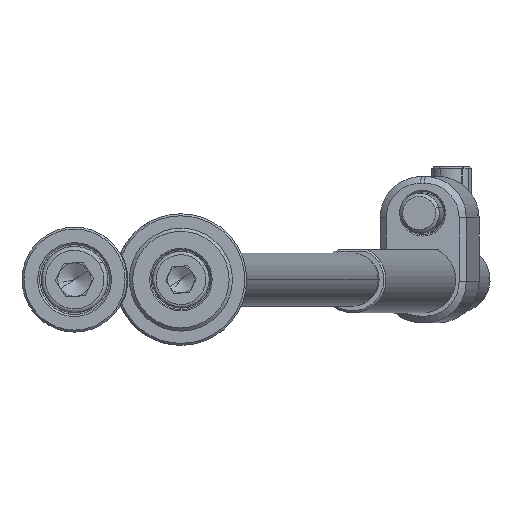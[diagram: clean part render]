
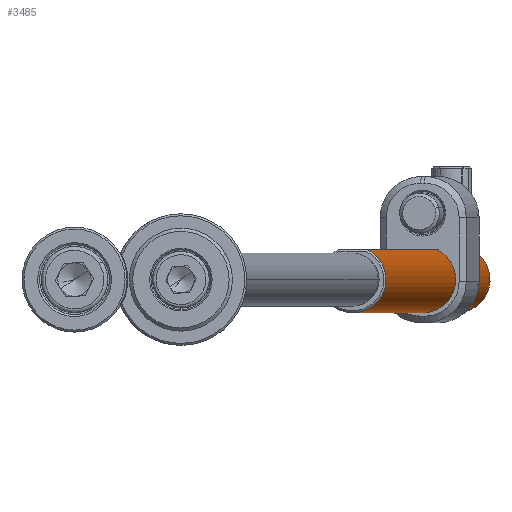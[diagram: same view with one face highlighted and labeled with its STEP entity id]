
A CAD part, front view. The second image highlights one B-rep face of the part: STEP entity #3485.
In plain terms, the highlighted cylindrical face has radius 5 mm (diameter 10 mm), a partial arc.
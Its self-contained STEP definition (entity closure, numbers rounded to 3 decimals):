
#20 = EDGE_CURVE ( 'NONE', #2278, #2241, #3200, .T. ) ;
#158 = LINE ( 'NONE', #9858, #6784 ) ;
#282 = EDGE_CURVE ( 'NONE', #2241, #5802, #5329, .T. ) ;
#767 = CARTESIAN_POINT ( 'NONE',  ( 4.068, -2.908, 9.236 ) ) ;
#895 = CIRCLE ( 'NONE', #2252, 5. ) ;
#908 = CARTESIAN_POINT ( 'NONE',  ( 0., 0., 199.7 ) ) ;
#1256 = CARTESIAN_POINT ( 'NONE',  ( 4.376, -2.421, 11.781 ) ) ;
#1326 = CARTESIAN_POINT ( 'NONE',  ( 4.5, -2.179, 199.7 ) ) ;
#1342 = CARTESIAN_POINT ( 'NONE',  ( 0., 0., 0.3 ) ) ;
#1447 = DIRECTION ( 'NONE',  ( -1., 0., 0. ) ) ;
#1528 = CYLINDRICAL_SURFACE ( 'NONE', #5214, 5. ) ;
#1675 = DIRECTION ( 'NONE',  ( 0., 0., -1. ) ) ;
#1778 = CARTESIAN_POINT ( 'NONE',  ( 4.202, -2.711, 8.701 ) ) ;
#1955 = AXIS2_PLACEMENT_3D ( 'NONE', #908, #4282, #12893 ) ;
#2241 = VERTEX_POINT ( 'NONE', #7533 ) ;
#2252 = AXIS2_PLACEMENT_3D ( 'NONE', #1342, #13490, #7021 ) ;
#2278 = VERTEX_POINT ( 'NONE', #11977 ) ;
#2408 = CARTESIAN_POINT ( 'NONE',  ( 4.015, -2.98, 10.396 ) ) ;
#2895 = CARTESIAN_POINT ( 'NONE',  ( 4.5, -2.179, 200. ) ) ;
#3016 = CARTESIAN_POINT ( 'NONE',  ( 4.107, -2.852, 9.051 ) ) ;
#3117 = CARTESIAN_POINT ( 'NONE',  ( -5., 0., 0.3 ) ) ;
#3200 = B_SPLINE_CURVE_WITH_KNOTS ( 'NONE', 3,
 ( #6716, #13480, #1256, #5659, #10027, #8939, #6943, #2408, #10246, #9392, #4862, #767, #3016, #1778, #10545, #7379, #8294, #13612 ),
 .UNSPECIFIED., .F., .F.,
 ( 4, 2, 2, 2, 2, 2, 2, 2, 4 ),
 ( 0., 0.001, 0.001, 0.002, 0.002, 0.003, 0.003, 0.004, 0.005 ),
 .UNSPECIFIED. ) ;
#3485 = ADVANCED_FACE ( 'NONE', ( #12675 ), #1528, .T. ) ;
#4282 = DIRECTION ( 'NONE',  ( 0., 0., -1. ) ) ;
#4414 = ORIENTED_EDGE ( 'NONE', *, *, #10338, .T. ) ;
#4425 = ORIENTED_EDGE ( 'NONE', *, *, #13908, .F. ) ;
#4480 = DIRECTION ( 'NONE',  ( 0., 0., -1. ) ) ;
#4862 = CARTESIAN_POINT ( 'NONE',  ( 4.014, -2.982, 9.617 ) ) ;
#5214 = AXIS2_PLACEMENT_3D ( 'NONE', #7137, #1675, #1447 ) ;
#5329 = LINE ( 'NONE', #2895, #6503 ) ;
#5499 = EDGE_CURVE ( 'NONE', #9335, #13426, #158, .T. ) ;
#5598 = DIRECTION ( 'NONE',  ( 0., 0., -1. ) ) ;
#5659 = CARTESIAN_POINT ( 'NONE',  ( 4.259, -2.621, 11.47 ) ) ;
#5802 = VERTEX_POINT ( 'NONE', #6476 ) ;
#6215 = ORIENTED_EDGE ( 'NONE', *, *, #6521, .T. ) ;
#6476 = CARTESIAN_POINT ( 'NONE',  ( 4.5, -2.179, 0.3 ) ) ;
#6503 = VECTOR ( 'NONE', #12660, 1000. ) ;
#6521 = EDGE_CURVE ( 'NONE', #10710, #9335, #13195, .T. ) ;
#6716 = CARTESIAN_POINT ( 'NONE',  ( 4.5, -2.179, 12.062 ) ) ;
#6784 = VECTOR ( 'NONE', #4480, 1000. ) ;
#6943 = CARTESIAN_POINT ( 'NONE',  ( 4.069, -2.906, 10.771 ) ) ;
#7021 = DIRECTION ( 'NONE',  ( 1., 0., 0. ) ) ;
#7137 = CARTESIAN_POINT ( 'NONE',  ( 0., 0., 200. ) ) ;
#7379 = CARTESIAN_POINT ( 'NONE',  ( 4.376, -2.422, 8.22 ) ) ;
#7533 = CARTESIAN_POINT ( 'NONE',  ( 4.5, -2.179, 7.938 ) ) ;
#7549 = CARTESIAN_POINT ( 'NONE',  ( 4.5, -2.179, 200. ) ) ;
#8294 = CARTESIAN_POINT ( 'NONE',  ( 4.438, -2.308, 8.074 ) ) ;
#8939 = CARTESIAN_POINT ( 'NONE',  ( 4.108, -2.851, 10.952 ) ) ;
#9335 = VERTEX_POINT ( 'NONE', #11688 ) ;
#9392 = CARTESIAN_POINT ( 'NONE',  ( 4., -3., 9.809 ) ) ;
#9858 = CARTESIAN_POINT ( 'NONE',  ( -5., 0., 200. ) ) ;
#10027 = CARTESIAN_POINT ( 'NONE',  ( 4.203, -2.709, 11.303 ) ) ;
#10246 = CARTESIAN_POINT ( 'NONE',  ( 4., -3., 10.198 ) ) ;
#10338 = EDGE_CURVE ( 'NONE', #13426, #5802, #895, .T. ) ;
#10545 = CARTESIAN_POINT ( 'NONE',  ( 4.258, -2.623, 8.532 ) ) ;
#10710 = VERTEX_POINT ( 'NONE', #1326 ) ;
#10904 = LINE ( 'NONE', #7549, #14016 ) ;
#11097 = ORIENTED_EDGE ( 'NONE', *, *, #282, .F. ) ;
#11171 = ORIENTED_EDGE ( 'NONE', *, *, #20, .F. ) ;
#11688 = CARTESIAN_POINT ( 'NONE',  ( -5., 0., 199.7 ) ) ;
#11842 = EDGE_LOOP ( 'NONE', ( #6215, #12426, #4414, #11097, #11171, #4425 ) ) ;
#11977 = CARTESIAN_POINT ( 'NONE',  ( 4.5, -2.179, 12.062 ) ) ;
#12426 = ORIENTED_EDGE ( 'NONE', *, *, #5499, .T. ) ;
#12660 = DIRECTION ( 'NONE',  ( 0., 0., -1. ) ) ;
#12675 = FACE_OUTER_BOUND ( 'NONE', #11842, .T. ) ;
#12893 = DIRECTION ( 'NONE',  ( 1., 0., 0. ) ) ;
#13195 = CIRCLE ( 'NONE', #1955, 5. ) ;
#13426 = VERTEX_POINT ( 'NONE', #3117 ) ;
#13480 = CARTESIAN_POINT ( 'NONE',  ( 4.438, -2.307, 11.926 ) ) ;
#13490 = DIRECTION ( 'NONE',  ( 0., 0., 1. ) ) ;
#13612 = CARTESIAN_POINT ( 'NONE',  ( 4.5, -2.179, 7.938 ) ) ;
#13908 = EDGE_CURVE ( 'NONE', #10710, #2278, #10904, .T. ) ;
#14016 = VECTOR ( 'NONE', #5598, 1000. ) ;
